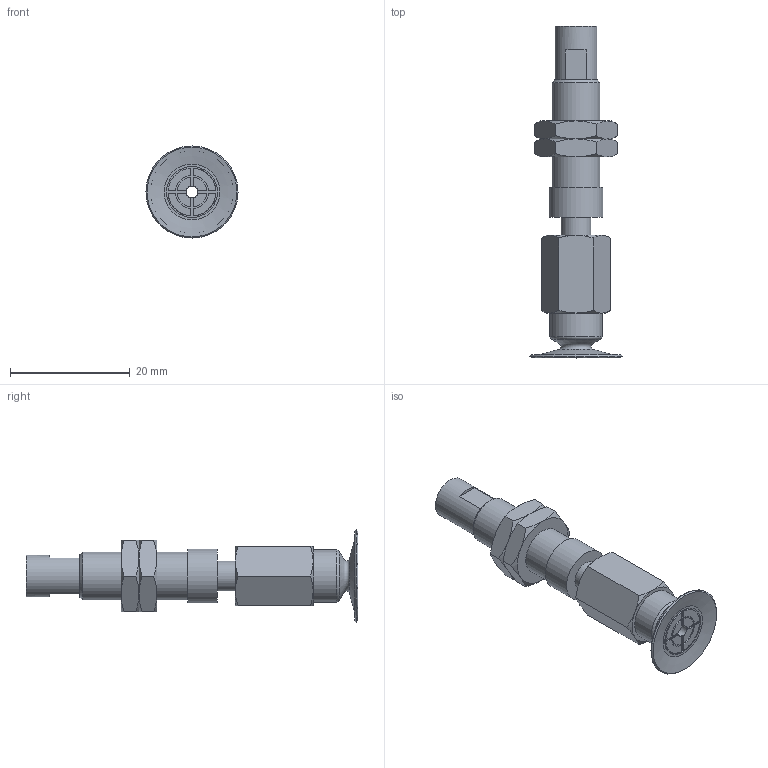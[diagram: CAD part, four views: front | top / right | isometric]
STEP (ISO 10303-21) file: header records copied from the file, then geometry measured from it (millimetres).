
FILE_DESCRIPTION(('STEP AP203'),'1');
FILE_NAME('.stp','2025-08-26T08:50:06',(' '),(' '),'Spatial InterOp 3D',' ',' ');
FILE_SCHEMA(('CONFIG_CONTROL_DESIGN'));
Length unit declared in the file: millimetre
Products named in the file (6): BNABPATS-15B-3-※; ADAPTER; NAPATS-10A-3--M; NAPATS-10A-3--F; Nut-10A-S; BPAG-15B-※_3D
Assembly tree (6 placements, depth 2):
  BNABPATS-15B-3-※
    ADAPTER
    NAPATS-10A-3--M
    NAPATS-10A-3--F
    Nut-10A-S  x2
    BPAG-15B-※_3D
Bounding box: 15.4 x 55.5 x 15.4 mm (x, y, z)
Volume: 3405.3 mm3; surface area: 4155.6 mm2
Topology: 6 solids, 6 shells, 155 faces, 344 edges, 208 vertices
Faces by surface type: plane 61, cone 55, cylinder 29, torus 10
Full cylindrical faces by diameter (mm): 2 x3, 4 x2, 4.134 x1, 5 x2, 6 x2, 7 x1, 7.188 x2, 8 x1, 8.5 x1, 8.7 x1, 9 x1
Entity records: 3928 total; most frequent: CARTESIAN_POINT 926, DIRECTION 570, ORIENTED_EDGE 500, EDGE_CURVE 250, AXIS2_PLACEMENT_3D 244, EDGE_LOOP 184, VERTEX_POINT 170, FACE_OUTER_BOUND 158
